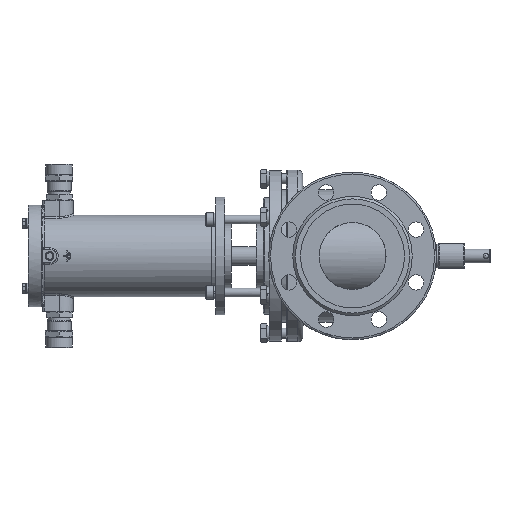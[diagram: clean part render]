
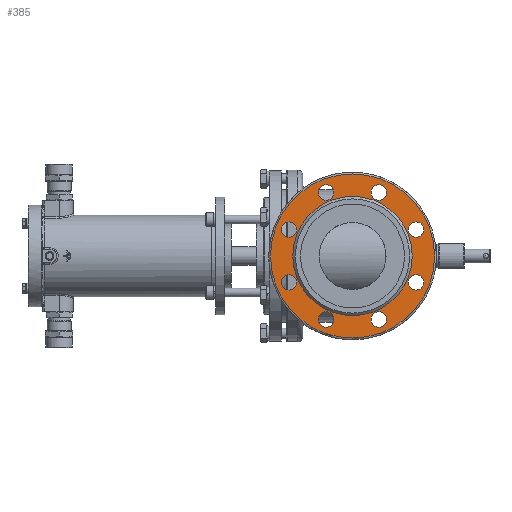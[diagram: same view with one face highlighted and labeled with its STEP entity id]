
A CAD part, left-side view. The second image highlights one B-rep face of the part: STEP entity #385.
In plain terms, the highlighted planar face has unit normal (-1, 0, 0).
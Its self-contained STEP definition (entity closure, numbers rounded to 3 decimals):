
#385=ADVANCED_FACE('',(#8298,#8300,#8302,#8304,#8306,#8308,#8310,#8312,#8314,#8316),
#8318,.T.);
#8298=FACE_BOUND('',#8299,.T.);
#8299=EDGE_LOOP('',(#25003));
#8300=FACE_BOUND('',#8301,.T.);
#8301=EDGE_LOOP('',(#25004));
#8302=FACE_BOUND('',#8303,.T.);
#8303=EDGE_LOOP('',(#25005));
#8304=FACE_BOUND('',#8305,.T.);
#8305=EDGE_LOOP('',(#25006));
#8306=FACE_BOUND('',#8307,.T.);
#8307=EDGE_LOOP('',(#25007));
#8308=FACE_BOUND('',#8309,.T.);
#8309=EDGE_LOOP('',(#25008));
#8310=FACE_BOUND('',#8311,.T.);
#8311=EDGE_LOOP('',(#25009));
#8312=FACE_BOUND('',#8313,.T.);
#8313=EDGE_LOOP('',(#25010));
#8314=FACE_BOUND('',#8315,.T.);
#8315=EDGE_LOOP('',(#25011));
#8316=FACE_OUTER_BOUND('',#8317,.T.);
#8317=EDGE_LOOP('',(#25012));
#8318=PLANE('',#8319);
#8319=AXIS2_PLACEMENT_3D('',#8320,#8321,#8322);
#8320=CARTESIAN_POINT('',(-151.,0.,0.));
#8321=DIRECTION('',(-1.,0.,0.));
#8322=DIRECTION('',(0.,1.,0.));
#25003=ORIENTED_EDGE('',*,*,#37409,.T.);
#25004=ORIENTED_EDGE('',*,*,#37407,.T.);
#25005=ORIENTED_EDGE('',*,*,#37405,.T.);
#25006=ORIENTED_EDGE('',*,*,#37403,.T.);
#25007=ORIENTED_EDGE('',*,*,#37401,.T.);
#25008=ORIENTED_EDGE('',*,*,#37399,.T.);
#25009=ORIENTED_EDGE('',*,*,#37397,.T.);
#25010=ORIENTED_EDGE('',*,*,#37395,.T.);
#25011=ORIENTED_EDGE('',*,*,#37443,.F.);
#25012=ORIENTED_EDGE('',*,*,#37444,.T.);
#37395=EDGE_CURVE('',#43084,#43084,#43086,.T.);
#37397=EDGE_CURVE('',#43087,#43087,#43089,.T.);
#37399=EDGE_CURVE('',#43090,#43090,#43092,.T.);
#37401=EDGE_CURVE('',#43093,#43093,#43095,.T.);
#37403=EDGE_CURVE('',#43096,#43096,#43098,.T.);
#37405=EDGE_CURVE('',#43099,#43099,#43101,.T.);
#37407=EDGE_CURVE('',#43102,#43102,#43104,.T.);
#37409=EDGE_CURVE('',#43105,#43105,#43107,.T.);
#37443=EDGE_CURVE('',#43160,#43160,#43161,.T.);
#37444=EDGE_CURVE('',#43162,#43162,#43163,.T.);
#43084=VERTEX_POINT('',#57388);
#43086=CIRCLE('',#57392,9.);
#43087=VERTEX_POINT('',#57396);
#43089=CIRCLE('',#57400,9.);
#43090=VERTEX_POINT('',#57404);
#43092=CIRCLE('',#57408,9.);
#43093=VERTEX_POINT('',#57412);
#43095=CIRCLE('',#57416,9.);
#43096=VERTEX_POINT('',#57420);
#43098=CIRCLE('',#57424,9.);
#43099=VERTEX_POINT('',#57428);
#43101=CIRCLE('',#57432,9.);
#43102=VERTEX_POINT('',#57436);
#43104=CIRCLE('',#57440,9.);
#43105=VERTEX_POINT('',#57444);
#43107=CIRCLE('',#57448,9.);
#43160=VERTEX_POINT('',#57790);
#43161=CIRCLE('',#57791,69.5);
#43162=VERTEX_POINT('',#57795);
#43163=CIRCLE('',#57796,95.5);
#57388=CARTESIAN_POINT('',(-151.,30.615,64.91));
#57392=AXIS2_PLACEMENT_3D('',#57393,#57394,#57395);
#57393=CARTESIAN_POINT('',(-151.,30.615,73.91));
#57394=DIRECTION('',(1.,0.,0.));
#57395=DIRECTION('',(0.,-1.,0.));
#57396=CARTESIAN_POINT('',(-151.,30.615,-82.91));
#57400=AXIS2_PLACEMENT_3D('',#57401,#57402,#57403);
#57401=CARTESIAN_POINT('',(-151.,30.615,-73.91));
#57402=DIRECTION('',(1.,0.,0.));
#57403=DIRECTION('',(0.,-1.,0.));
#57404=CARTESIAN_POINT('',(-151.,73.91,21.615));
#57408=AXIS2_PLACEMENT_3D('',#57409,#57410,#57411);
#57409=CARTESIAN_POINT('',(-151.,73.91,30.615));
#57410=DIRECTION('',(1.,0.,0.));
#57411=DIRECTION('',(0.,-1.,0.));
#57412=CARTESIAN_POINT('',(-151.,-30.615,-82.91));
#57416=AXIS2_PLACEMENT_3D('',#57417,#57418,#57419);
#57417=CARTESIAN_POINT('',(-151.,-30.615,-73.91));
#57418=DIRECTION('',(1.,0.,0.));
#57419=DIRECTION('',(0.,-1.,0.));
#57420=CARTESIAN_POINT('',(-151.,-73.91,21.615));
#57424=AXIS2_PLACEMENT_3D('',#57425,#57426,#57427);
#57425=CARTESIAN_POINT('',(-151.,-73.91,30.615));
#57426=DIRECTION('',(1.,0.,0.));
#57427=DIRECTION('',(0.,-1.,0.));
#57428=CARTESIAN_POINT('',(-151.,-30.615,64.91));
#57432=AXIS2_PLACEMENT_3D('',#57433,#57434,#57435);
#57433=CARTESIAN_POINT('',(-151.,-30.615,73.91));
#57434=DIRECTION('',(1.,0.,0.));
#57435=DIRECTION('',(0.,-1.,0.));
#57436=CARTESIAN_POINT('',(-151.,73.91,-39.615));
#57440=AXIS2_PLACEMENT_3D('',#57441,#57442,#57443);
#57441=CARTESIAN_POINT('',(-151.,73.91,-30.615));
#57442=DIRECTION('',(1.,0.,0.));
#57443=DIRECTION('',(0.,-1.,0.));
#57444=CARTESIAN_POINT('',(-151.,-73.91,-39.615));
#57448=AXIS2_PLACEMENT_3D('',#57449,#57450,#57451);
#57449=CARTESIAN_POINT('',(-151.,-73.91,-30.615));
#57450=DIRECTION('',(1.,0.,0.));
#57451=DIRECTION('',(0.,-1.,0.));
#57790=CARTESIAN_POINT('',(-151.,-69.5,0.));
#57791=AXIS2_PLACEMENT_3D('',#57792,#57793,#57794);
#57792=CARTESIAN_POINT('',(-151.,0.,0.));
#57793=DIRECTION('',(-1.,0.,0.));
#57794=DIRECTION('',(0.,1.,0.));
#57795=CARTESIAN_POINT('',(-151.,-95.5,0.));
#57796=AXIS2_PLACEMENT_3D('',#57797,#57798,#57799);
#57797=CARTESIAN_POINT('',(-151.,0.,0.));
#57798=DIRECTION('',(-1.,0.,0.));
#57799=DIRECTION('',(0.,1.,0.));
